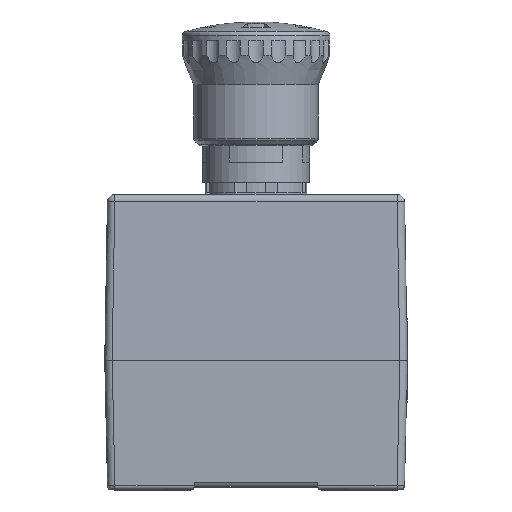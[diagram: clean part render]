
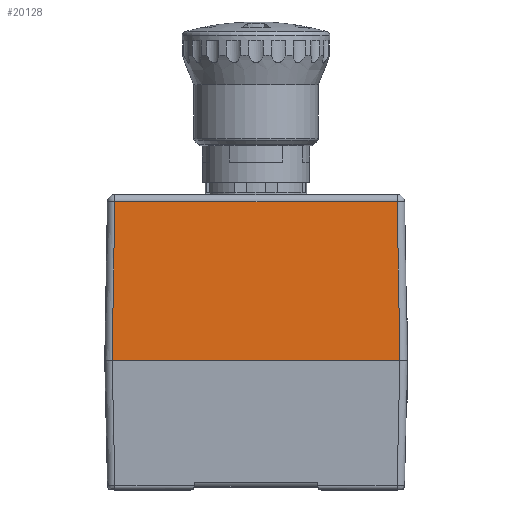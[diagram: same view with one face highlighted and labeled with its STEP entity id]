
A CAD part, top view. The second image highlights one B-rep face of the part: STEP entity #20128.
In plain terms, the highlighted planar face has unit normal (0, 0.017, 1) as drawn and (0, 1, -0.017) by its records, which use the part's own axes.
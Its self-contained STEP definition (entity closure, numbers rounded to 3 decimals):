
#16357=CARTESIAN_POINT('',(39.,36.0,45.0));
#16358=VERTEX_POINT('',#16357);
#16366=CARTESIAN_POINT('',(-39.,36.0,45.0));
#16367=VERTEX_POINT('',#16366);
#16368=CARTESIAN_POINT('',(-39.,36.0,45.0));
#16369=DIRECTION('',(1.0,0.0,0.0));
#16370=VECTOR('',#16369,78.001);
#16371=LINE('',#16368,#16370);
#16372=EDGE_CURVE('',#16367,#16358,#16371,.T.);
#18210=CARTESIAN_POINT('',(-38.283,35.283,1.967));
#18211=VERTEX_POINT('',#18210);
#18243=CARTESIAN_POINT('',(38.283,35.283,1.967));
#18244=VERTEX_POINT('',#18243);
#18466=CARTESIAN_POINT('',(-38.283,35.283,1.967));
#18467=DIRECTION('',(1.0,0.0,0.0));
#18468=VECTOR('',#18467,76.566);
#18469=LINE('',#18466,#18468);
#18470=EDGE_CURVE('',#18211,#18244,#18469,.T.);
#18488=CARTESIAN_POINT('',(38.283,35.283,1.967));
#18489=DIRECTION('',(0.017,0.017,1.));
#18490=VECTOR('',#18489,43.045);
#18491=LINE('',#18488,#18490);
#18492=EDGE_CURVE('',#18244,#16358,#18491,.T.);
#18503=CARTESIAN_POINT('',(-39.,36.,45.));
#18504=DIRECTION('',(0.017,-0.017,-1.));
#18505=VECTOR('',#18504,43.045);
#18506=LINE('',#18503,#18505);
#18507=EDGE_CURVE('',#16367,#18211,#18506,.T.);
#20117=CARTESIAN_POINT('',(-40.25,35.25,0.0));
#20118=DIRECTION('',(0.0,-1.,0.017));
#20119=DIRECTION('',(0.0,-0.017,-1.));
#20120=AXIS2_PLACEMENT_3D('',#20117,#20118,#20119);
#20121=PLANE('',#20120);
#20122=ORIENTED_EDGE('',*,*,#18507,.F.);
#20123=ORIENTED_EDGE('',*,*,#16372,.T.);
#20124=ORIENTED_EDGE('',*,*,#18492,.F.);
#20125=ORIENTED_EDGE('',*,*,#18470,.F.);
#20126=EDGE_LOOP('',(#20122,#20123,#20124,#20125));
#20127=FACE_OUTER_BOUND('',#20126,.T.);
#20128=ADVANCED_FACE('',(#20127),#20121,.F.);
